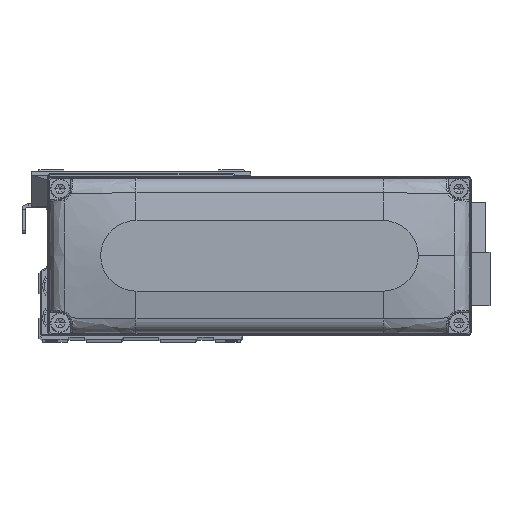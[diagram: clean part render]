
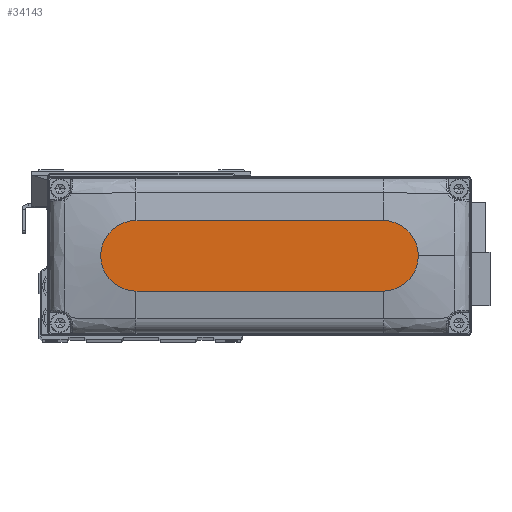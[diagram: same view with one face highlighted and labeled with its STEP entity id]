
A CAD part, top view. The second image highlights one B-rep face of the part: STEP entity #34143.
In plain terms, the highlighted planar face has unit normal (0, 0, 1).
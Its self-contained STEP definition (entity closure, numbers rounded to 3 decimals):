
#497 = LINE ( 'NONE', #13707, #20297 ) ;
#3616 = DIRECTION ( 'NONE',  ( -1., 0., 0. ) ) ;
#3637 = EDGE_LOOP ( 'NONE', ( #27921, #26647, #39275, #17329, #8983 ) ) ;
#4424 = VECTOR ( 'NONE', #3616, 1000. ) ;
#7481 = VERTEX_POINT ( 'NONE', #22266 ) ;
#8201 = DIRECTION ( 'NONE',  ( 1., 0., 0. ) ) ;
#8339 = DIRECTION ( 'NONE',  ( 0., 0., 1. ) ) ;
#8983 = ORIENTED_EDGE ( 'NONE', *, *, #11212, .T. ) ;
#9092 = CARTESIAN_POINT ( 'NONE',  ( 35., 10., 28. ) ) ;
#10292 = AXIS2_PLACEMENT_3D ( 'NONE', #29033, #42250, #12591 ) ;
#10711 = CIRCLE ( 'NONE', #34904, 10. ) ;
#11212 = EDGE_CURVE ( 'NONE', #24256, #24488, #28952, .T. ) ;
#11605 = FACE_OUTER_BOUND ( 'NONE', #3637, .T. ) ;
#12591 = DIRECTION ( 'NONE',  ( 1., 0., 0. ) ) ;
#12850 = DIRECTION ( 'NONE',  ( 0., 0., 1. ) ) ;
#13707 = CARTESIAN_POINT ( 'NONE',  ( -35., -10., 28. ) ) ;
#13731 = CARTESIAN_POINT ( 'NONE',  ( 45., 0., 28. ) ) ;
#17086 = EDGE_CURVE ( 'NONE', #22898, #25228, #497, .T. ) ;
#17329 = ORIENTED_EDGE ( 'NONE', *, *, #18627, .T. ) ;
#18627 = EDGE_CURVE ( 'NONE', #25228, #24256, #10711, .T. ) ;
#19403 = AXIS2_PLACEMENT_3D ( 'NONE', #24669, #37868, #8201 ) ;
#20068 = LINE ( 'NONE', #33268, #4424 ) ;
#20297 = VECTOR ( 'NONE', #26913, 1000. ) ;
#21559 = DIRECTION ( 'NONE',  ( 1., 0., 0. ) ) ;
#21576 = CARTESIAN_POINT ( 'NONE',  ( 35., -10., 28. ) ) ;
#22266 = CARTESIAN_POINT ( 'NONE',  ( -35., 10., 28. ) ) ;
#22898 = VERTEX_POINT ( 'NONE', #36614 ) ;
#24256 = VERTEX_POINT ( 'NONE', #13731 ) ;
#24488 = VERTEX_POINT ( 'NONE', #9092 ) ;
#24669 = CARTESIAN_POINT ( 'NONE',  ( -35., 0., 28. ) ) ;
#24814 = PLANE ( 'NONE',  #34770 ) ;
#25228 = VERTEX_POINT ( 'NONE', #21576 ) ;
#26061 = DIRECTION ( 'NONE',  ( 1., 0., 0. ) ) ;
#26647 = ORIENTED_EDGE ( 'NONE', *, *, #29440, .T. ) ;
#26913 = DIRECTION ( 'NONE',  ( 1., 0., 0. ) ) ;
#27921 = ORIENTED_EDGE ( 'NONE', *, *, #35228, .T. ) ;
#28952 = CIRCLE ( 'NONE', #10292, 10. ) ;
#29033 = CARTESIAN_POINT ( 'NONE',  ( 35., 0., 28. ) ) ;
#29440 = EDGE_CURVE ( 'NONE', #7481, #22898, #38073, .T. ) ;
#33268 = CARTESIAN_POINT ( 'NONE',  ( -35., 10., 28. ) ) ;
#34143 = ADVANCED_FACE ( 'NONE', ( #11605 ), #24814, .T. ) ;
#34770 = AXIS2_PLACEMENT_3D ( 'NONE', #37999, #8339, #21559 ) ;
#34904 = AXIS2_PLACEMENT_3D ( 'NONE', #42505, #12850, #26061 ) ;
#35228 = EDGE_CURVE ( 'NONE', #24488, #7481, #20068, .T. ) ;
#36614 = CARTESIAN_POINT ( 'NONE',  ( -35., -10., 28. ) ) ;
#37868 = DIRECTION ( 'NONE',  ( 0., 0., 1. ) ) ;
#37999 = CARTESIAN_POINT ( 'NONE',  ( 0., 0., 28. ) ) ;
#38073 = CIRCLE ( 'NONE', #19403, 10. ) ;
#39275 = ORIENTED_EDGE ( 'NONE', *, *, #17086, .T. ) ;
#42250 = DIRECTION ( 'NONE',  ( 0., 0., 1. ) ) ;
#42505 = CARTESIAN_POINT ( 'NONE',  ( 35., 0., 28. ) ) ;
